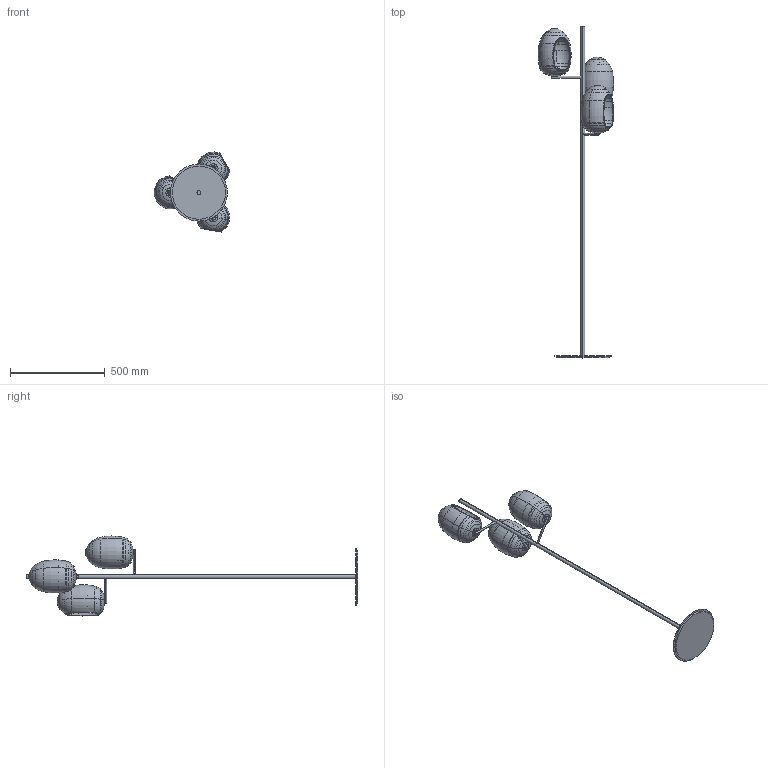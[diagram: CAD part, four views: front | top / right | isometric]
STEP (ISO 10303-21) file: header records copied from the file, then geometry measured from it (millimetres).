
FILE_DESCRIPTION (( 'STEP AP203' ), '1' );
FILE_NAME ('FOST1_FOS_terra.STEP', '2025-04-29T08:09:21', ( '' ), ( '' ), 'SwSTEP 2.0', 'SolidWorks 2022', '' );
FILE_SCHEMA (( 'CONFIG_CONTROL_DESIGN' ));
Length unit declared in the file: millimetre
Products named in the file (3): FOST1_FOS_terra; FOS parte in vetro; Struttura x FOS_piantana
Assembly tree (4 placements, depth 2):
  FOST1_FOS_terra
    Struttura x FOS_piantana
    FOS parte in vetro  x3
Bounding box: 397.79 x 1747.5 x 421.17 mm (x, y, z)
Volume: 1078230.7 mm3; surface area: 1345545.5 mm2
Topology: 6 solids, 33 shells, 562 faces, 1361 edges, 842 vertices
Faces by surface type: torus 216, cylinder 209, bspline 66, plane 57, cone 14
Entity records: 17833 total; most frequent: CARTESIAN_POINT 8811, DIRECTION 2002, ORIENTED_EDGE 1742, AXIS2_PLACEMENT_3D 893, EDGE_CURVE 877, VERTEX_POINT 568, CIRCLE 545, EDGE_LOOP 371
